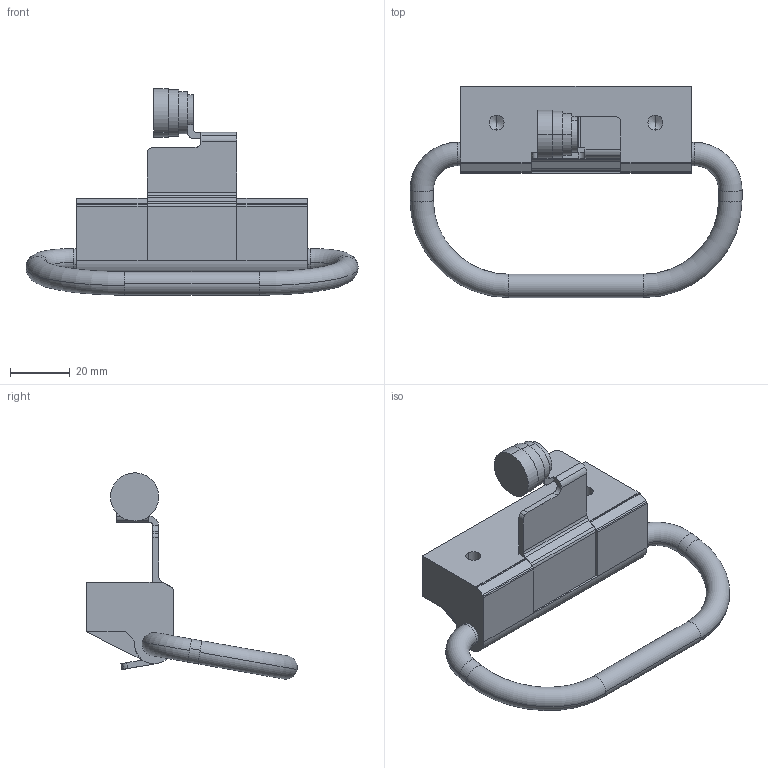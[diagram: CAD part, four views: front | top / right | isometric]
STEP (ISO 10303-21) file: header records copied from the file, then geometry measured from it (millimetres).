
FILE_DESCRIPTION(('STEP AP242'),'1');
FILE_NAME('OPO_53.433.15_volu_3d.stp','2025-11-08T20:30:46',(' '),(' '),'Spatial InterOp 3D',' ',' ');
FILE_SCHEMA(('AP242_MANAGED_MODEL_BASED_3D_ENGINEERING_MIM_LF {1 0 10303 442 1 1 4}'));
Length unit declared in the file: millimetre
Products named in the file (1): 1
Bounding box: 110.8 x 70.42 x 68.86 mm (x, y, z)
Volume: 60730.8 mm3; surface area: 17259.1 mm2
Topology: 4 solids, 4 shells, 159 faces, 428 edges, 278 vertices
Faces by surface type: cylinder 76, plane 71, torus 8, cone 4
Entity records: 6368 total; most frequent: DIRECTION 934, CARTESIAN_POINT 877, ORIENTED_EDGE 848, EDGE_CURVE 424, AXIS2_PLACEMENT_3D 349, VERTEX_POINT 278, LINE 236, VECTOR 236
